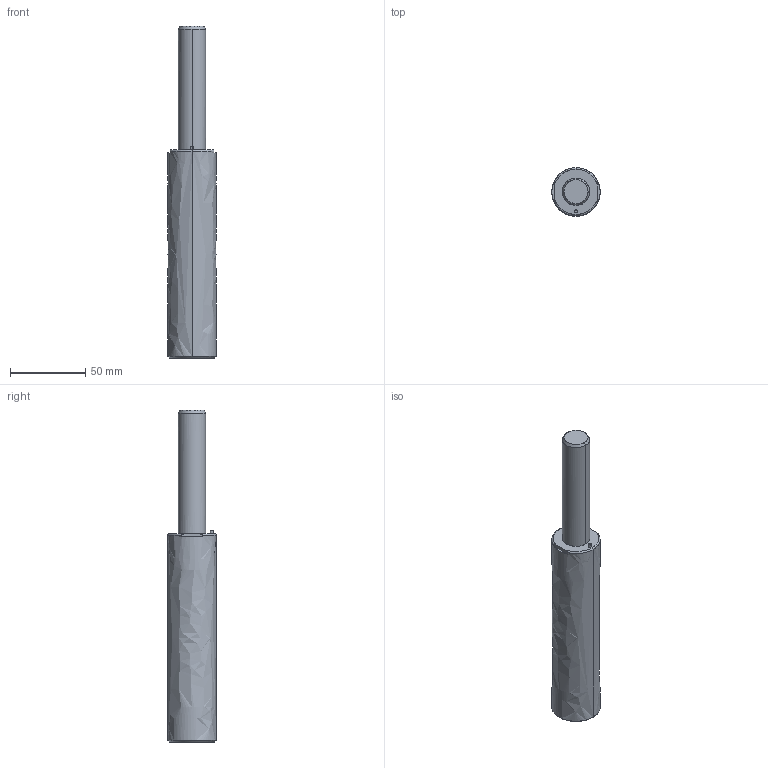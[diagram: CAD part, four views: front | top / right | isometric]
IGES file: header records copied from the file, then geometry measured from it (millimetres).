
Global section: file name: E:\UnigraphicsGraphicData\MISUMI_PRESS-PARTS\IGES\3d_gsx32-80_03969_r00.igs; native system: NX V5.0; preprocessor: UGS NX IGES V5.0; author: MISUMI; date: 20110105.160823; units: millimetre
Bounding box: 32 x 32 x 220 mm (x, y, z)
Surface area: 20873.8 mm2 (no closed solid volume)
Topology: 0 solids, 0 shells, 45 faces, 308 edges, 304 vertices
Faces by surface type: bspline 45
